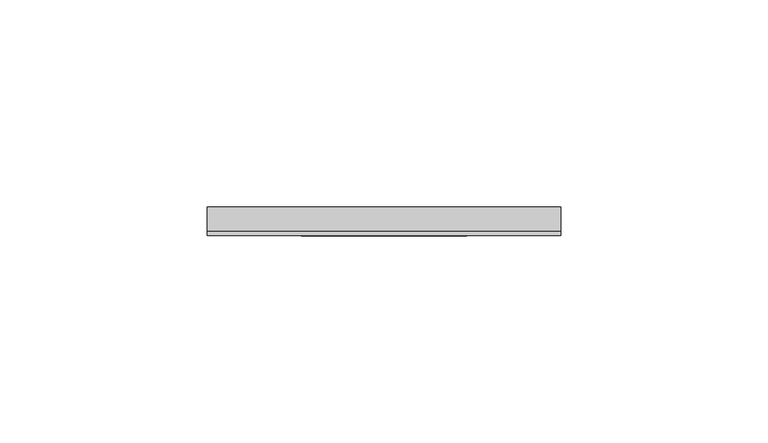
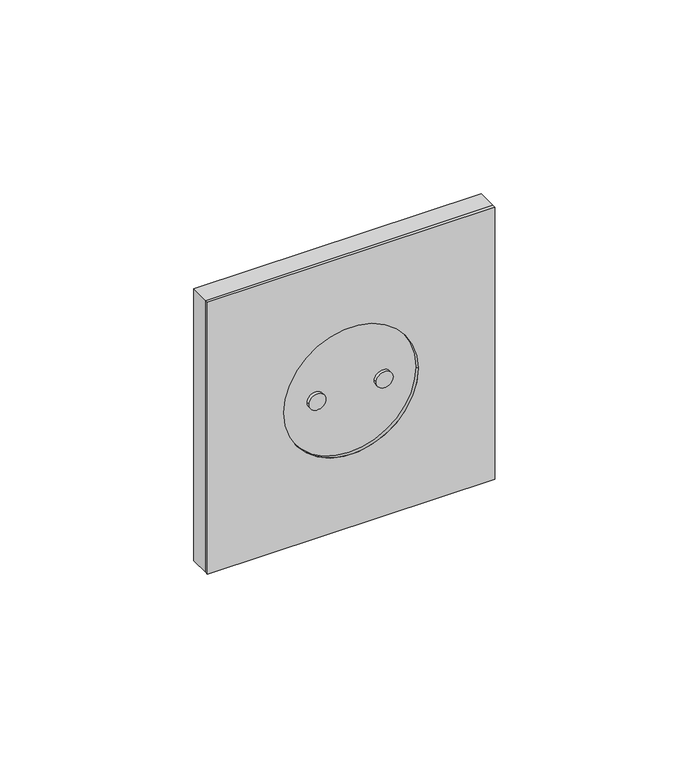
"""IFC4 building model written with IfcOpenShell, lengths in millimetres: proxy geometry, ZYR_05.02.02 Presa Simple Paret 2 : 01 Presa Previsio."""

from ifc_helpers import new_model, si_unit, point, frame, frame_2d, origin, origin_2d, place, context, project, spatial, polyline, circle_curve, trimmed, segment, composite_curve, outline, extrude, source, transform, mapped, element, save


def electrical_fixtures_81c46def(model_context):
    return source(origin(), model_context, "Body", "SweptSolid", [
        extrude(outline(polyline([(42.75, 42.75), (42.75, -42.75), (-42.75, -42.75), (-42.75, 42.75), (42.75, 42.75)]), holes=[composite_curve([segment(trimmed(circle_curve(origin_2d(), 20.0), [point((0.0, -20.0))], [point((0.0, 20.0))], True, "CARTESIAN"), True, "CONTINUOUS"), segment(trimmed(circle_curve(origin_2d(), 20.0), [point((0.0, 20.0))], [point((0.0, -20.0))], True, "CARTESIAN"), True, "CONTINUOUS")], self_intersect=False)]), frame((0.0, -7.0, 0.0), z_axis=(0.0, 1.0, 0.0), x_axis=(0.0, 0.0, 1.0)), (0.0, 0.0, 1.0), 1.0),
        extrude(outline(composite_curve([segment(trimmed(circle_curve(frame_2d((0.0, 10.0)), 2.5), [point((0.0, 7.5))], [point((0.0, 12.5))], False, "CARTESIAN"), True, "CONTINUOUS"), segment(trimmed(circle_curve(frame_2d((0.0, 10.0)), 2.5), [point((0.0, 12.5))], [point((0.0, 7.5))], False, "CARTESIAN"), True, "CONTINUOUS")], self_intersect=False)), frame((0.0, -7.0, 0.0), z_axis=(0.0, 1.0, 0.0), x_axis=(0.0, 0.0, 1.0)), (0.0, 0.0, 1.0), 1.0),
        extrude(outline(composite_curve([segment(trimmed(circle_curve(frame_2d((0.0, -10.0)), 2.5), [point((0.0, -12.5))], [point((0.0, -7.5))], False, "CARTESIAN"), True, "CONTINUOUS"), segment(trimmed(circle_curve(frame_2d((0.0, -10.0)), 2.5), [point((0.0, -7.5))], [point((0.0, -12.5))], False, "CARTESIAN"), True, "CONTINUOUS")], self_intersect=False)), frame((0.0, -7.0, 0.0), z_axis=(0.0, 1.0, 0.0), x_axis=(0.0, 0.0, 1.0)), (0.0, 0.0, 1.0), 1.0),
        extrude(outline(polyline([(42.75, -6.0), (-42.75, -6.0), (-42.75, 0.0), (42.75, 0.0), (42.75, -6.0)])), frame((0.0, 0.0, -42.75), z_axis=(0.0, 0.0, 1.0), x_axis=(1.0, 0.0, 0.0)), (0.0, 0.0, 1.0), 85.5),
    ])


if __name__ == "__main__":
    model = new_model("IFC4")
    model_context = context("Model", 3, world=origin())
    ifc_project = project(units=[si_unit("LENGTHUNIT", "METRE", prefix="MILLI")], contexts=[model_context])
    site = spatial("IfcSite", under=ifc_project)
    building = spatial("IfcBuilding", under=site)
    placement = place(None, origin())
    electrical_fixtures_shape = electrical_fixtures_81c46def(model_context)
    element("IfcBuildingElementProxy", 1, Name="ZYR_05.02.02 Presa Simple Paret 2 : 01 Presa Previsio", ObjectType="ZYR_05.02.02 Presa Simple Paret 2 : 01 Presa Previsio", at=placement, inside=building, context=model_context, shape_type="MappedRepresentation", body=[
        mapped(electrical_fixtures_shape, transform((0.0, 0.0, 0.0), x_axis=(1.0, 0.0, 0.0), y_axis=(0.0, 1.0, 0.0), z_axis=(0.0, 0.0, 1.0))),
    ])
    save(model, "model.ifc")
